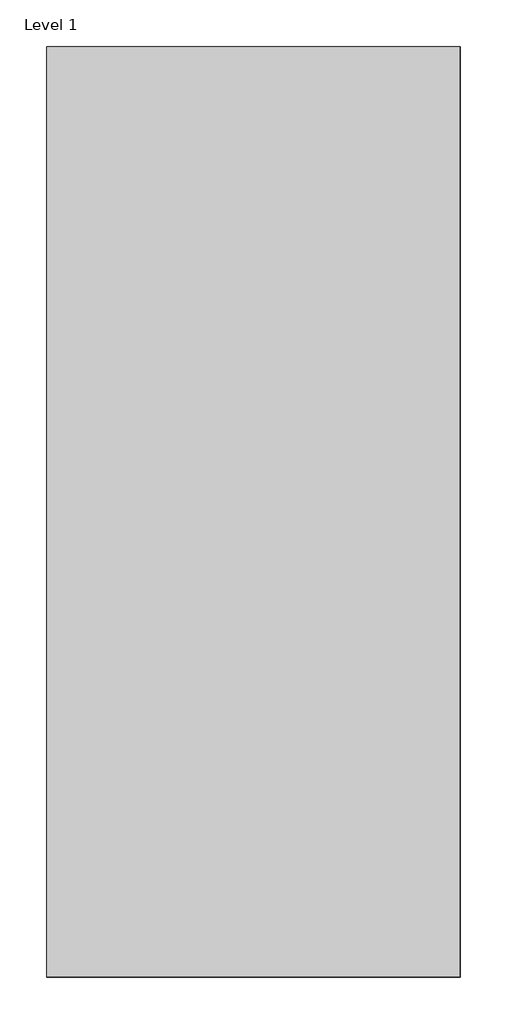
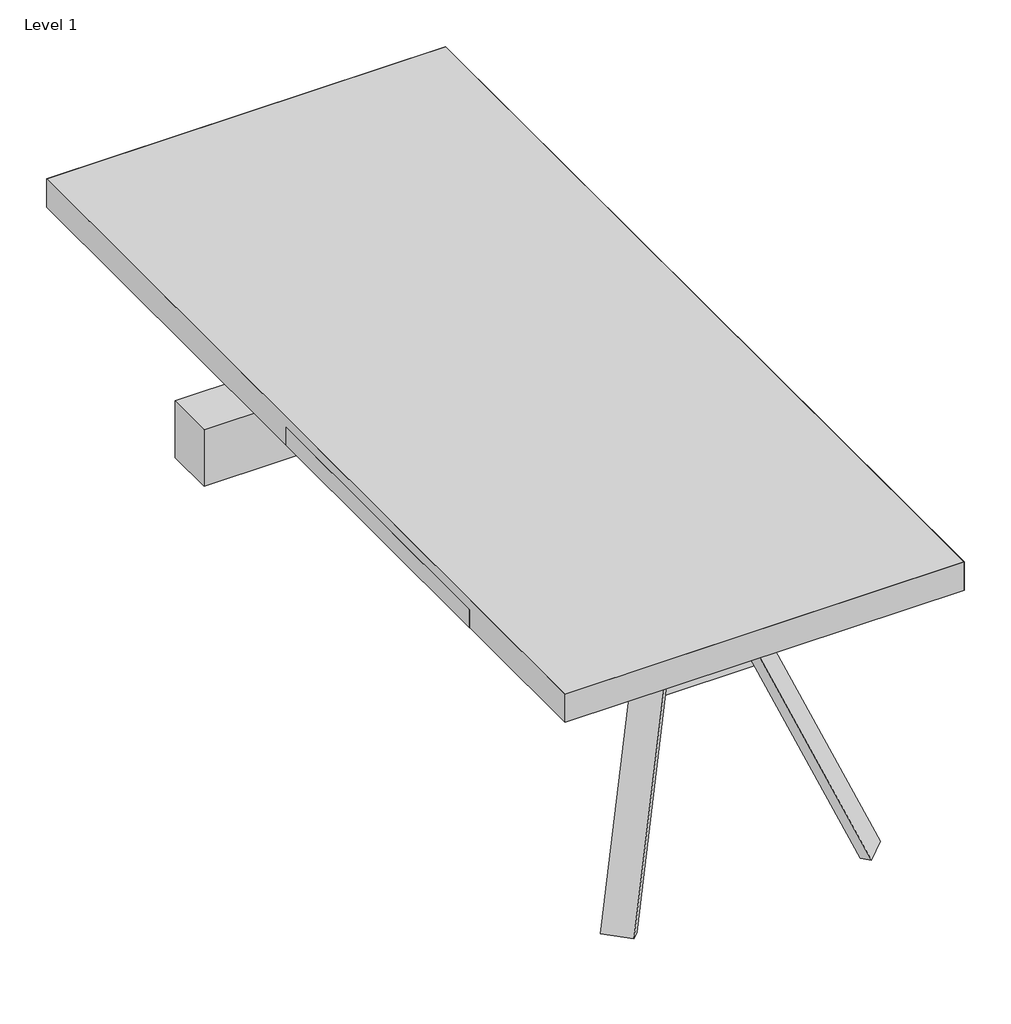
# One storey, incomplete: 3 proxies.
"""IFC4 building model written with IfcOpenShell, lengths in millimetres."""

from ifc_helpers import new_model, si_unit, origin, place, context, project, spatial, transform, mapped, element, save
from components import generic_models_0fb66c6c, generic_models_0e8dc97b, generic_models_4a1e9b02

model = new_model("IFC4")

# Units and contexts
model_context = context("Model", 3, world=origin())
ifc_project = project(units=[si_unit("LENGTHUNIT", "METRE", prefix="MILLI")], contexts=[model_context])

# Site, building, storey
site = spatial("IfcSite", under=ifc_project)
building = spatial("IfcBuilding", under=site)
storey = spatial("IfcBuildingStorey", under=building, Name="Level 1", Elevation=0.0)

# Proxies
placement = place(None, origin())
generic_models_shape = generic_models_0fb66c6c(model_context)
element("IfcBuildingElementProxy", 1, Name="DATUM^OFFICE 1_DESK-BOTTOM RISER", ObjectType="DATUM^OFFICE 1_DESK-BOTTOM RISER", at=placement, inside=storey, context=model_context, shape_type="MappedRepresentation", body=[
    mapped(generic_models_shape, transform((254.0, -254.0, 0.0), x_axis=(1.0, 0.0, 0.0), y_axis=(0.0, 0.0, 1.0), z_axis=(0.0, -1.0, 0.0))),
])
generic_models_2_shape = generic_models_0e8dc97b(model_context)
element("IfcBuildingElementProxy", 2, Name="DATUM^OFFICE 1_DESK-SOLID ASSEMBLY", ObjectType="DATUM^OFFICE 1_DESK-SOLID ASSEMBLY", at=placement, inside=storey, context=model_context, shape_type="MappedRepresentation", body=[
    mapped(generic_models_2_shape, transform((0.0, -2286.0, 0.0), x_axis=(0.0, 1.0, 0.0), y_axis=(0.0, 0.0, 1.0), z_axis=(1.0, 0.0, 0.0))),
])
generic_models_3_shape = generic_models_4a1e9b02(model_context)
element("IfcBuildingElementProxy", 3, Name="DATUM^OFFICE 1_DESK-TOP RISER", ObjectType="DATUM^OFFICE 1_DESK-TOP RISER", at=placement, inside=storey, context=model_context, shape_type="MappedRepresentation", body=[
    mapped(generic_models_3_shape, transform((254.0, -254.0, 571.5), x_axis=(1.0, 0.0, 0.0), y_axis=(0.0, 0.0, 1.0), z_axis=(0.0, -1.0, 0.0))),
])

save(model, "model.ifc")
